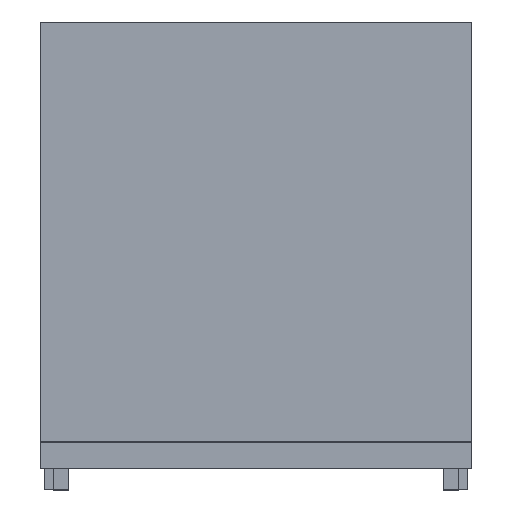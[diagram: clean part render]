
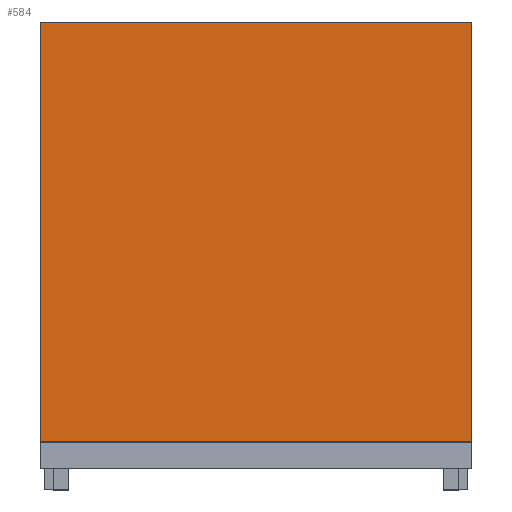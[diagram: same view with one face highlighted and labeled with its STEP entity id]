
A CAD part, top view. The second image highlights one B-rep face of the part: STEP entity #584.
In plain terms, the highlighted planar face has unit normal (0, 0, 1).
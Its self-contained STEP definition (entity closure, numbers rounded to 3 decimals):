
#584=ADVANCED_FACE('',(#4724),#4726,.T.);
#4724=FACE_BOUND('',#4725,.T.);
#4725=EDGE_LOOP('',(#8443,#8444,#8445,#8446));
#4726=PLANE('',#4727);
#4727=AXIS2_PLACEMENT_3D('',#4728,#4729,#4730);
#4728=CARTESIAN_POINT('',(0.,50.25,141.3));
#4729=DIRECTION('',(0.,0.,1.));
#4730=DIRECTION('',(1.,0.,0.));
#8443=ORIENTED_EDGE('',*,*,#10142,.T.);
#8444=ORIENTED_EDGE('',*,*,#10171,.F.);
#8445=ORIENTED_EDGE('',*,*,#10169,.F.);
#8446=ORIENTED_EDGE('',*,*,#10167,.F.);
#10142=EDGE_CURVE('',#12795,#12793,#12796,.T.);
#10167=EDGE_CURVE('',#12795,#12833,#12834,.F.);
#10169=EDGE_CURVE('',#12833,#12836,#12837,.F.);
#10171=EDGE_CURVE('',#12836,#12793,#12839,.F.);
#12793=VERTEX_POINT('',#19041);
#12795=VERTEX_POINT('',#19045);
#12796=LINE('',#19046,#19047);
#12833=VERTEX_POINT('',#19133);
#12834=LINE('',#19134,#19135);
#12836=VERTEX_POINT('',#19140);
#12837=LINE('',#19141,#19142);
#12839=LINE('',#19147,#19148);
#19041=CARTESIAN_POINT('',(372.8,-311.5,141.3));
#19045=CARTESIAN_POINT('',(-372.8,-311.5,141.3));
#19046=CARTESIAN_POINT('',(-372.8,-311.5,141.3));
#19047=VECTOR('',#19048,1.);
#19048=DIRECTION('',(1.,0.,0.));
#19133=CARTESIAN_POINT('',(-372.8,413.3,141.3));
#19134=CARTESIAN_POINT('',(-372.8,413.3,141.3));
#19135=VECTOR('',#19136,1.);
#19136=DIRECTION('',(0.,-1.,0.));
#19140=CARTESIAN_POINT('',(372.8,413.3,141.3));
#19141=CARTESIAN_POINT('',(372.8,413.3,141.3));
#19142=VECTOR('',#19143,1.);
#19143=DIRECTION('',(-1.,0.,0.));
#19147=CARTESIAN_POINT('',(372.8,-311.5,141.3));
#19148=VECTOR('',#19149,1.);
#19149=DIRECTION('',(0.,1.,0.));
